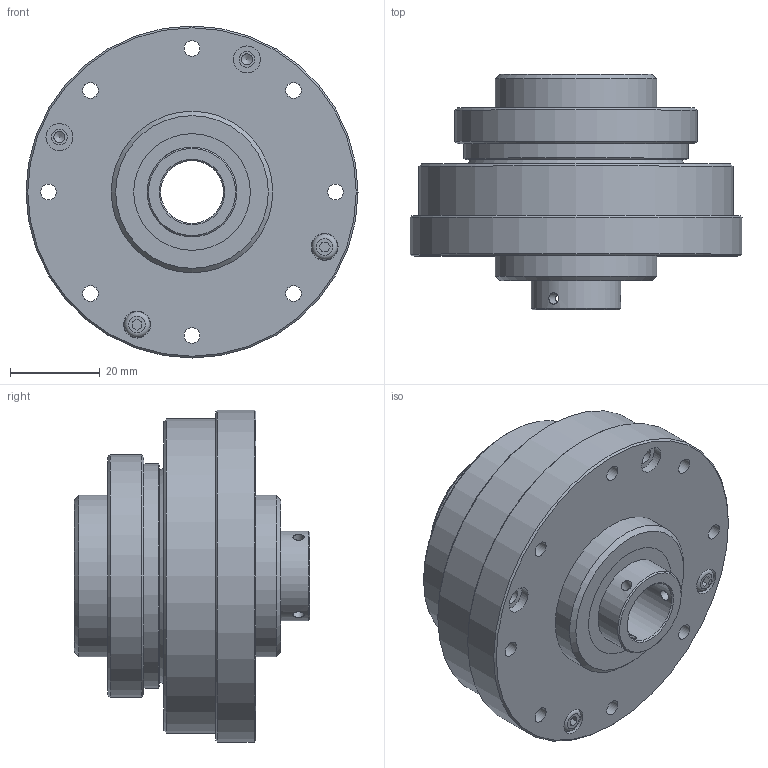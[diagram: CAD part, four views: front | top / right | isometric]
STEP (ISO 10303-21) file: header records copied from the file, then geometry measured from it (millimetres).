
FILE_DESCRIPTION(/* description */ (''),/* implementation_level */ '2;1');
FILE_NAME(/* name */ 'LHT-14-U-3',/* time_stamp */ '2017-09-16T15:25:04+08:00',/* author */ (''),/* organization */ (''),/* preprocessor_version */ 'ST-DEVELOPER v9',/* originating_system */ 'UGS - NX 4.0',/* authorisation */ '');
FILE_SCHEMA (('AUTOMOTIVE_DESIGN { 1 0 10303 214 1 1 1 1 }'));
Length unit declared in the file: millimetre
Products named in the file (1): Admi85A9d2pc
Bounding box: 74 x 52.5 x 74 mm (x, y, z)
Volume: 104929.4 mm3; surface area: 81056.9 mm2
Topology: 79 solids, 80 shells, 568 faces, 1282 edges, 854 vertices
Faces by surface type: cylinder 233, plane 224, cone 46, torus 34, sphere 28, revolution 3
Full cylindrical faces by diameter (mm): 2.1 x2, 2.459 x16, 2.5 x3, 2.7 x1, 3 x28, 3.5 x56, 5.5 x3, 5.7 x2, 6 x8, 14 x2, 14.5 x1, 20 x6, 22 x1, 23.4 x1, 23.5 x2, 24.5 x1, 25 x1, 25.04 x1, 25.07 x1, 26 x2, 27 x1, 28 x3, 28.6 x2, 29.92 x1, 30 x1, 31 x1, 32 x6, 33.92 x1, 34.5 x1, 35.5 x1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
Entity records: 14562 total; most frequent: DIRECTION 2587, CARTESIAN_POINT 2518, ORIENTED_EDGE 1676, AXIS2_PLACEMENT_3D 1185, EDGE_LOOP 992, EDGE_CURVE 838, VERTEX_POINT 748, FACE_BOUND 722
